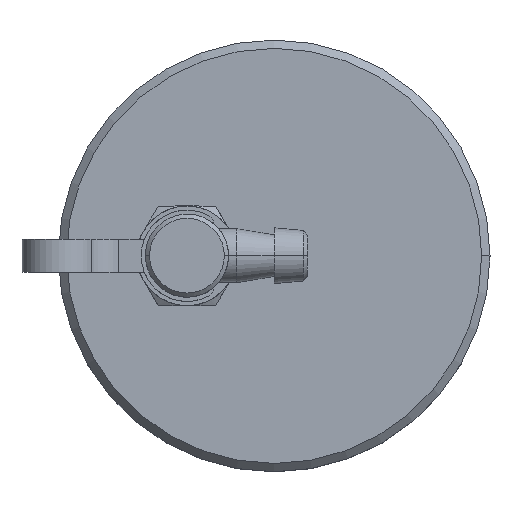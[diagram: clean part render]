
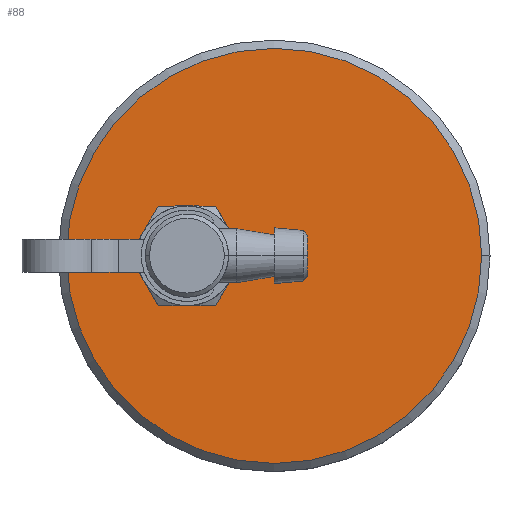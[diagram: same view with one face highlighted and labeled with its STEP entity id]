
A CAD part, top view. The second image highlights one B-rep face of the part: STEP entity #88.
In plain terms, the highlighted planar face has unit normal (0, 0, 1).
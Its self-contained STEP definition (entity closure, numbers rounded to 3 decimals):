
#88=ADVANCED_FACE('',(#610,#611),#609,.T.);
#609=PLANE('',#1225);
#610=FACE_OUTER_BOUND('',#1226,.T.);
#611=FACE_BOUND('',#1227,.T.);
#1222=CARTESIAN_POINT('',(-32.5,-51.962,86.));
#1223=DIRECTION('',(0.,0.,1.));
#1224=DIRECTION('',(1.,0.,0.));
#1225=AXIS2_PLACEMENT_3D('',#1222,#1223,#1224);
#1226=EDGE_LOOP('',(#1766,#1767));
#1227=EDGE_LOOP('',(#1768,#1769,#1770,#1771,#1772,#1773,#1774,#1775,#1776,#1777,#1778,#1779));
#1766=ORIENTED_EDGE('',*,*,#2094,.F.);
#1767=ORIENTED_EDGE('',*,*,#2095,.F.);
#1768=ORIENTED_EDGE('',*,*,#2042,.T.);
#1769=ORIENTED_EDGE('',*,*,#2056,.T.);
#1770=ORIENTED_EDGE('',*,*,#2048,.T.);
#1771=ORIENTED_EDGE('',*,*,#2058,.T.);
#1772=ORIENTED_EDGE('',*,*,#2096,.T.);
#1773=ORIENTED_EDGE('',*,*,#2063,.T.);
#1774=ORIENTED_EDGE('',*,*,#2097,.T.);
#1775=ORIENTED_EDGE('',*,*,#2065,.T.);
#1776=ORIENTED_EDGE('',*,*,#1954,.T.);
#1777=ORIENTED_EDGE('',*,*,#2055,.T.);
#1778=ORIENTED_EDGE('',*,*,#2053,.T.);
#1779=ORIENTED_EDGE('',*,*,#2054,.T.);
#1954=EDGE_CURVE('',#2172,#2214,#2221,.T.);
#2042=EDGE_CURVE('',#2776,#2810,#2817,.T.);
#2048=EDGE_CURVE('',#2823,#2850,#2857,.T.);
#2053=EDGE_CURVE('',#2863,#2882,#2889,.T.);
#2054=EDGE_CURVE('',#2882,#2776,#2895,.T.);
#2055=EDGE_CURVE('',#2214,#2863,#2901,.T.);
#2056=EDGE_CURVE('',#2810,#2823,#2907,.T.);
#2058=EDGE_CURVE('',#2850,#2913,#2920,.T.);
#2063=EDGE_CURVE('',#2938,#2946,#2953,.T.);
#2065=EDGE_CURVE('',#2959,#2172,#2966,.T.);
#2094=EDGE_CURVE('',#3161,#3162,#3163,.T.);
#2095=EDGE_CURVE('',#3162,#3161,#3169,.T.);
#2096=EDGE_CURVE('',#2913,#2938,#3175,.T.);
#2097=EDGE_CURVE('',#2946,#2959,#3181,.T.);
#2172=VERTEX_POINT('',#3541);
#2214=VERTEX_POINT('',#3574);
#2221=LINE('',#3581,#3582);
#2776=VERTEX_POINT('',#3945);
#2810=VERTEX_POINT('',#3975);
#2817=LINE('',#3984,#3985);
#2823=VERTEX_POINT('',#3987);
#2850=VERTEX_POINT('',#4011);
#2857=LINE('',#4018,#4019);
#2863=VERTEX_POINT('',#4021);
#2882=VERTEX_POINT('',#4040);
#2889=LINE('',#4047,#4048);
#2895=CIRCLE('',#4053,6.);
#2901=CIRCLE('',#4057,6.);
#2907=CIRCLE('',#4061,6.);
#2913=VERTEX_POINT('',#4062);
#2920=CIRCLE('',#4072,6.);
#2938=VERTEX_POINT('',#4085);
#2946=VERTEX_POINT('',#4093);
#2953=CIRCLE('',#4103,6.);
#2959=VERTEX_POINT('',#4104);
#2966=CIRCLE('',#4116,6.);
#3161=VERTEX_POINT('',#4247);
#3162=VERTEX_POINT('',#4248);
#3163=CIRCLE('',#4252,25.);
#3169=CIRCLE('',#4256,25.);
#3175=LINE('',#4257,#4258);
#3181=LINE('',#4260,#4261);
#3541=CARTESIAN_POINT('',(-5.331,3.047,86.));
#3574=CARTESIAN_POINT('',(-5.277,2.953,86.));
#3581=CARTESIAN_POINT('',(-5.331,3.047,86.));
#3582=VECTOR('',#3583,0.109);
#3583=DIRECTION('',(0.5,-0.866,0.));
#3945=CARTESIAN_POINT('',(-10.463,-6.,86.));
#3975=CARTESIAN_POINT('',(-10.537,-6.,86.));
#3984=CARTESIAN_POINT('',(-10.463,-6.,86.));
#3985=VECTOR('',#3986,0.075);
#3986=DIRECTION('',(-1.,0.,0.));
#3987=CARTESIAN_POINT('',(-15.669,-3.047,86.));
#4011=CARTESIAN_POINT('',(-15.723,-2.953,86.));
#4018=CARTESIAN_POINT('',(-15.669,-3.047,86.));
#4019=VECTOR('',#4020,0.109);
#4020=DIRECTION('',(-0.5,0.866,0.));
#4021=CARTESIAN_POINT('',(-5.277,-2.953,86.));
#4040=CARTESIAN_POINT('',(-5.331,-3.047,86.));
#4047=CARTESIAN_POINT('',(-5.277,-2.953,86.));
#4048=VECTOR('',#4049,0.109);
#4049=DIRECTION('',(-0.5,-0.866,0.));
#4050=CARTESIAN_POINT('',(-10.5,0.,86.));
#4051=DIRECTION('',(0.,0.,-1.));
#4052=DIRECTION('',(1.,0.,0.));
#4053=AXIS2_PLACEMENT_3D('',#4050,#4051,#4052);
#4054=CARTESIAN_POINT('',(-10.5,0.,86.));
#4055=DIRECTION('',(0.,0.,-1.));
#4056=DIRECTION('',(0.871,0.492,0.));
#4057=AXIS2_PLACEMENT_3D('',#4054,#4055,#4056);
#4058=CARTESIAN_POINT('',(-10.5,0.,86.));
#4059=DIRECTION('',(0.,0.,-1.));
#4060=DIRECTION('',(1.,0.,0.));
#4061=AXIS2_PLACEMENT_3D('',#4058,#4059,#4060);
#4062=CARTESIAN_POINT('',(-15.723,2.953,86.));
#4069=CARTESIAN_POINT('',(-10.5,0.,86.));
#4070=DIRECTION('',(0.,0.,-1.));
#4071=DIRECTION('',(1.,0.,0.));
#4072=AXIS2_PLACEMENT_3D('',#4069,#4070,#4071);
#4085=CARTESIAN_POINT('',(-15.669,3.047,86.));
#4093=CARTESIAN_POINT('',(-10.537,6.,86.));
#4100=CARTESIAN_POINT('',(-10.5,0.,86.));
#4101=DIRECTION('',(0.,0.,-1.));
#4102=DIRECTION('',(1.,0.,0.));
#4103=AXIS2_PLACEMENT_3D('',#4100,#4101,#4102);
#4104=CARTESIAN_POINT('',(-10.463,6.,86.));
#4113=CARTESIAN_POINT('',(-10.5,0.,86.));
#4114=DIRECTION('',(0.,0.,-1.));
#4115=DIRECTION('',(1.,0.,0.));
#4116=AXIS2_PLACEMENT_3D('',#4113,#4114,#4115);
#4247=CARTESIAN_POINT('',(25.,0.,86.));
#4248=CARTESIAN_POINT('',(-25.,0.,86.));
#4249=CARTESIAN_POINT('',(0.,0.,86.));
#4250=DIRECTION('',(0.,0.,-1.));
#4251=DIRECTION('',(-1.,0.,0.));
#4252=AXIS2_PLACEMENT_3D('',#4249,#4250,#4251);
#4253=CARTESIAN_POINT('',(0.,0.,86.));
#4254=DIRECTION('',(0.,0.,-1.));
#4255=DIRECTION('',(-1.,0.,0.));
#4256=AXIS2_PLACEMENT_3D('',#4253,#4254,#4255);
#4257=CARTESIAN_POINT('',(-15.723,2.953,86.));
#4258=VECTOR('',#4259,0.109);
#4259=DIRECTION('',(0.5,0.866,0.));
#4260=CARTESIAN_POINT('',(-10.537,6.,86.));
#4261=VECTOR('',#4262,0.075);
#4262=DIRECTION('',(1.,0.,0.));
